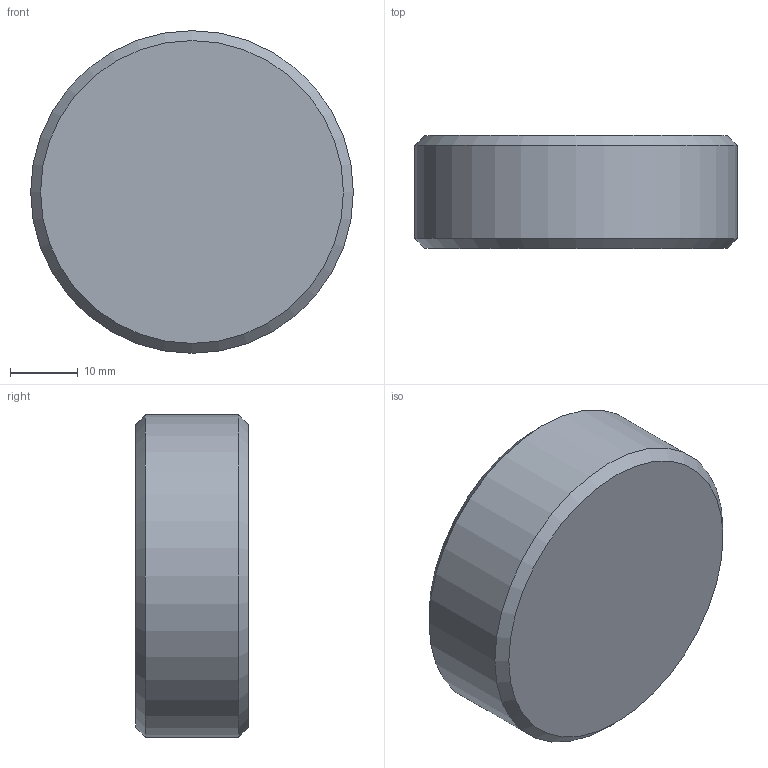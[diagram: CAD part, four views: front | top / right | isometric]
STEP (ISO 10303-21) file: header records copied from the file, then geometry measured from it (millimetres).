
FILE_DESCRIPTION(/* description */ (''),/* implementation_level */ '2;1');
FILE_NAME(/* name */ 'C:/Users/drich/Desktop/BF-1-1_2 v1.step',/* time_stamp */ '2020-01-08T20:42:08-06:00',/* author */ (''),/* organization */ (''),/* preprocessor_version */ 'ST-DEVELOPER v18',/* originating_system */ 'Autodesk Translation Framework v8.12.0.6',/* authorisation */ '');
FILE_SCHEMA (('AUTOMOTIVE_DESIGN { 1 0 10303 214 3 1 1 }'));
Length unit declared in the file: inch
Products named in the file (1): BF-1-1_2
Bounding box: 47.62 x 16.66 x 47.62 mm (x, y, z)
Volume: 25713.9 mm3; surface area: 6500.4 mm2
Topology: 1 solids, 1 shells, 13 faces, 35 edges, 25 vertices
Faces by surface type: plane 9, cone 3, cylinder 1
Full cylindrical faces by diameter (mm): 47.623 x1
Entity records: 446 total; most frequent: CARTESIAN_POINT 98, ORIENTED_EDGE 70, DIRECTION 58, EDGE_CURVE 35, VERTEX_POINT 25, AXIS2_PLACEMENT_3D 21, LINE 16, VECTOR 16
